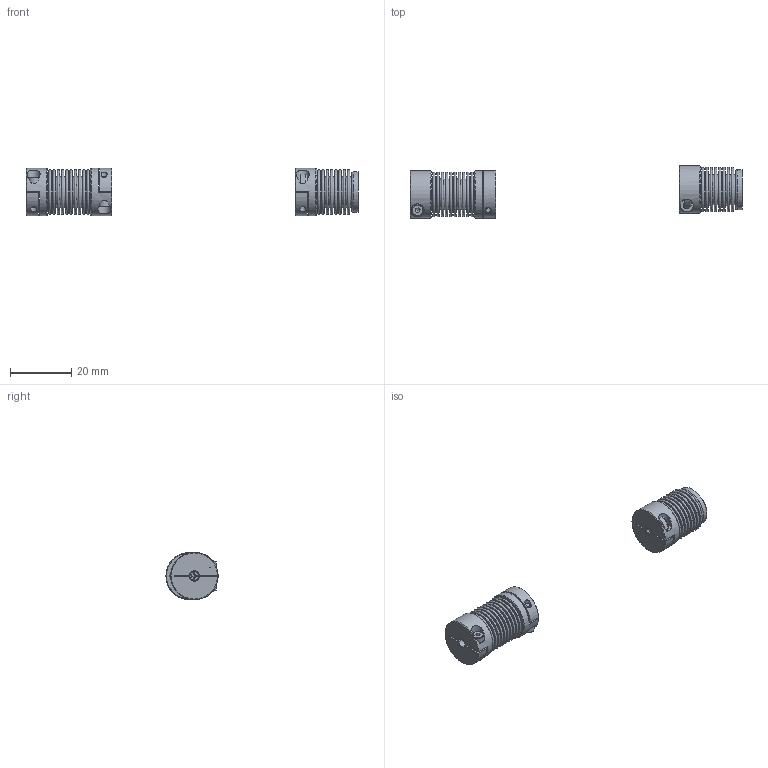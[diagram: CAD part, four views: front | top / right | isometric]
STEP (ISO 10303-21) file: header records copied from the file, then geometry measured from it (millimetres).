
FILE_DESCRIPTION( ( 'Unknown' ), '1' );
FILE_NAME( 'C:/Dokumente und Einstellungen/Sven/Desktop/cad - homepage/KB2/KB2-5-28.stp', 'Unknown', ( 'Unknown' ), ( 'Unknown' ), 'XStep 1.0', 'Unknown', ' ' );
FILE_SCHEMA( ( 'automotive_design' ) );
Length unit declared in the file: millimetre
Products named in the file (4): Assem1; Socket Head Cap Screw_DIN_DIN 912 M2 x 8 --- 8N_4; KN5_Standard_1; BL5_Standard
Bounding box: 108.59 x 17.07 x 15.5 mm (x, y, z)
Volume: 4049.2 mm3; surface area: 13066.7 mm2
Topology: 8 solids, 8 shells, 324 faces, 620 edges, 403 vertices
Faces by surface type: plane 170, torus 98, cylinder 38, cone 18
Full cylindrical faces by diameter (mm): 2 x6, 2.2 x3, 3 x3, 3.8 x3, 12.9 x4, 13.1 x4, 15.5 x3
Entity records: 4077 total; most frequent: CARTESIAN_POINT 607, DIRECTION 602, ORIENTED_EDGE 376, AXIS2_PLACEMENT_3D 278, EDGE_LOOP 254, FACE_OUTER_BOUND 198, EDGE_CURVE 188, VERTEX_POINT 161
